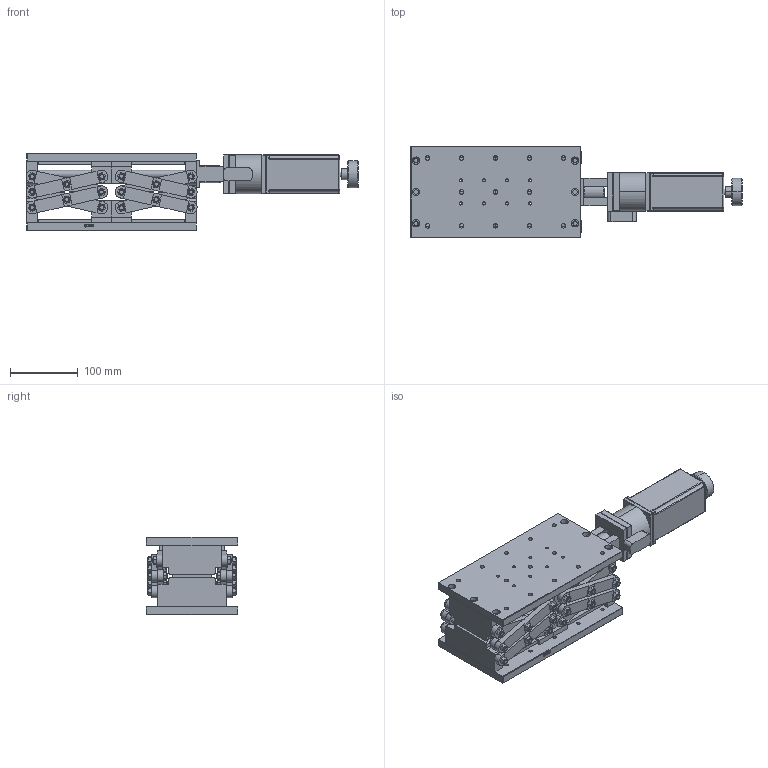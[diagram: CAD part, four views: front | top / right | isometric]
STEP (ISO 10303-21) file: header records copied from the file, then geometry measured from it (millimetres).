
FILE_DESCRIPTION (( 'STEP AP214' ), '1' );
FILE_NAME ('萇雄汔蔥怢.STEP', '2024-10-26T06:03:03', ( '' ), ( '' ), 'SwSTEP 2.0', 'SolidWorks 2017', '' );
FILE_SCHEMA (( 'AUTOMOTIVE_DESIGN' ));
Length unit declared in the file: millimetre
Products named in the file (60): 結啣2; 怢醱; 絳寢賑輸; 萇儂釱; 佪裝; 諉芛; 結啣; 絳寢; 蟀裝; 熬厒ん; 薊粣ん; 賑輸2; 57萇儂; 菁醱; 賑輸; 萇雄汔蔥怢
Assembly tree (44 placements, depth 2):
  結啣2
  絳寢賑輸
  萇儂釱
  佪裝
  絳寢賑輸
Bounding box: 488.99 x 135 x 114 mm (x, y, z)
Volume: 2286380.5 mm3; surface area: 519521.1 mm2
Topology: 44 solids, 44 shells, 3147 faces, 7536 edges, 4658 vertices
Faces by surface type: plane 2269, cylinder 492, cone 202, bspline 160, sphere 16, torus 8
Entity records: 38711 total; most frequent: CARTESIAN_POINT 13196, ORIENTED_EDGE 5034, DIRECTION 4565, EDGE_CURVE 2517, LINE 1611, VECTOR 1611, VERTEX_POINT 1600, AXIS2_PLACEMENT_3D 1477
